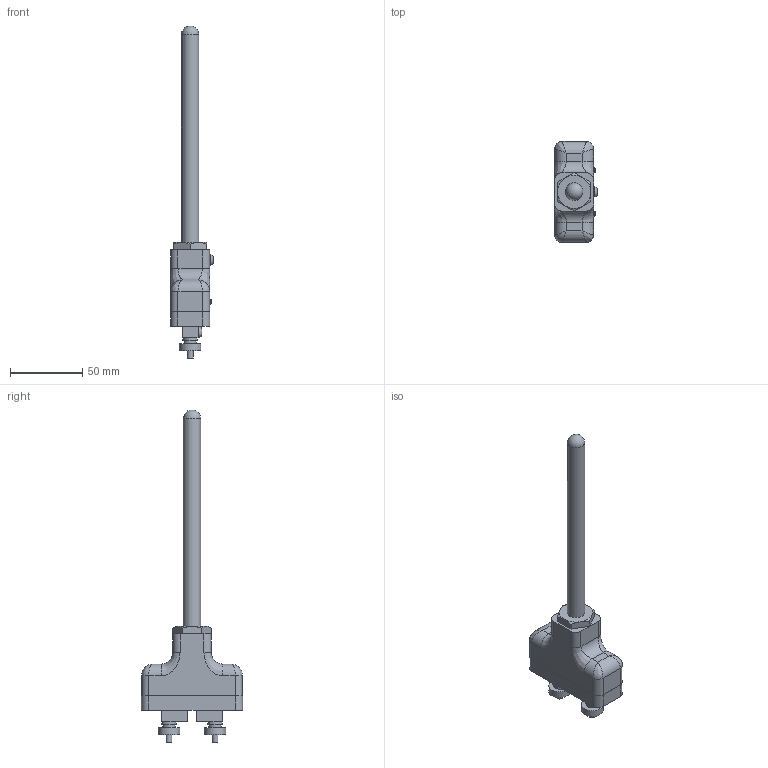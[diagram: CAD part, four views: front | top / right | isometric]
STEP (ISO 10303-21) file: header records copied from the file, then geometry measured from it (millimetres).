
FILE_DESCRIPTION (( 'STEP AP203' ), '1' );
FILE_NAME ('YIT85-6(0).step', '2025-08-26T07:23:23', ( '' ), ( '' ), 'SwSTEP 2.0', 'SolidWorks 2024', '' );
FILE_SCHEMA (( 'CONFIG_CONTROL_DESIGN' ));
Length unit declared in the file: millimetre
Products named in the file (1): YIT85-6(0)
Bounding box: 29.55 x 70 x 229.96 mm (x, y, z)
Volume: 98338.5 mm3; surface area: 21726.1 mm2
Topology: 10 solids, 10 shells, 251 faces, 591 edges, 383 vertices
Faces by surface type: plane 180, cylinder 54, bspline 8, torus 7, cone 1, sphere 1
Full cylindrical faces by diameter (mm): 1.5 x2, 2 x2, 3 x1, 3.5 x2, 4 x11, 7 x7, 8.5 x2, 10 x2, 11 x1, 12 x2, 15 x2
Entity records: 7521 total; most frequent: CARTESIAN_POINT 2096, ORIENTED_EDGE 1054, DIRECTION 1040, EDGE_CURVE 527, VERTEX_POINT 367, AXIS2_PLACEMENT_3D 357, LINE 326, VECTOR 326
